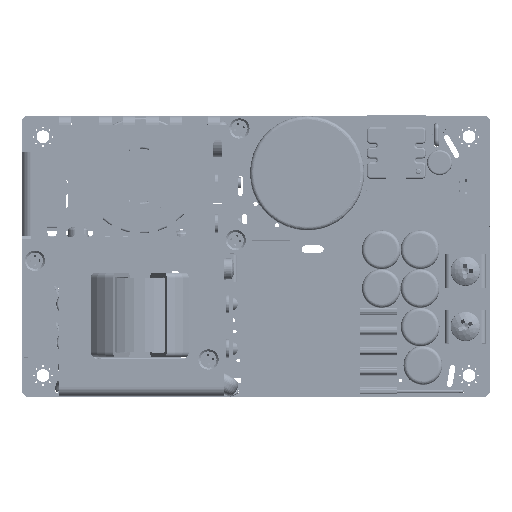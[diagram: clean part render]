
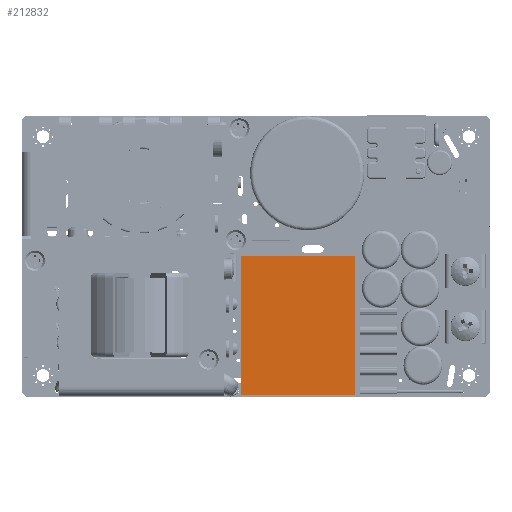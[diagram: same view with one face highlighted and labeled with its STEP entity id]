
A CAD part, top view. The second image highlights one B-rep face of the part: STEP entity #212832.
In plain terms, the highlighted planar face has unit normal (0, 0, 1).
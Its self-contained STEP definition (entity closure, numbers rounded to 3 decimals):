
#29384 = CARTESIAN_POINT ( 'NONE',  ( -0.064, -5.525, 144.353 ) ) ;
#30865 = PLANE ( 'NONE',  #91770 ) ;
#39710 = CARTESIAN_POINT ( 'NONE',  ( 30.936, -43.225, 144.353 ) ) ;
#41966 = CARTESIAN_POINT ( 'NONE',  ( -0.064, -43.225, 144.353 ) ) ;
#44978 = CARTESIAN_POINT ( 'NONE',  ( 3.185, -17.079, 144.353 ) ) ;
#45737 = VECTOR ( 'NONE', #90598, 1000. ) ;
#54440 = VERTEX_POINT ( 'NONE', #29384 ) ;
#57094 = CARTESIAN_POINT ( 'NONE',  ( 30.936, -5.525, 144.353 ) ) ;
#64327 = DIRECTION ( 'NONE',  ( 0., 0., 1. ) ) ;
#66141 = FACE_OUTER_BOUND ( 'NONE', #154481, .T. ) ;
#71908 = DIRECTION ( 'NONE',  ( 0., 1., 0. ) ) ;
#78920 = EDGE_CURVE ( 'NONE', #54440, #156027, #186446, .T. ) ;
#83855 = VERTEX_POINT ( 'NONE', #57094 ) ;
#90598 = DIRECTION ( 'NONE',  ( -1., 0., 0. ) ) ;
#91770 = AXIS2_PLACEMENT_3D ( 'NONE', #44978, #64327, #97256 ) ;
#97256 = DIRECTION ( 'NONE',  ( 1., 0., 0. ) ) ;
#99956 = LINE ( 'NONE', #41966, #150678 ) ;
#105203 = ORIENTED_EDGE ( 'NONE', *, *, #143962, .T. ) ;
#108498 = VERTEX_POINT ( 'NONE', #39710 ) ;
#114238 = LINE ( 'NONE', #191145, #164891 ) ;
#120977 = DIRECTION ( 'NONE',  ( 0., -1., 0. ) ) ;
#123231 = EDGE_CURVE ( 'NONE', #83855, #54440, #187112, .T. ) ;
#124987 = CARTESIAN_POINT ( 'NONE',  ( -0.064, -5.525, 144.353 ) ) ;
#133345 = VECTOR ( 'NONE', #120977, 1000. ) ;
#133417 = EDGE_CURVE ( 'NONE', #108498, #83855, #114238, .T. ) ;
#136685 = ORIENTED_EDGE ( 'NONE', *, *, #123231, .T. ) ;
#143962 = EDGE_CURVE ( 'NONE', #156027, #108498, #99956, .T. ) ;
#150678 = VECTOR ( 'NONE', #193970, 1000. ) ;
#154481 = EDGE_LOOP ( 'NONE', ( #195699, #105203, #207026, #136685 ) ) ;
#156027 = VERTEX_POINT ( 'NONE', #203617 ) ;
#164891 = VECTOR ( 'NONE', #71908, 1000. ) ;
#173086 = CARTESIAN_POINT ( 'NONE',  ( -0.064, -5.525, 144.353 ) ) ;
#186446 = LINE ( 'NONE', #173086, #133345 ) ;
#187112 = LINE ( 'NONE', #124987, #45737 ) ;
#191145 = CARTESIAN_POINT ( 'NONE',  ( 30.936, -5.525, 144.353 ) ) ;
#193970 = DIRECTION ( 'NONE',  ( 1., 0., 0. ) ) ;
#195699 = ORIENTED_EDGE ( 'NONE', *, *, #78920, .T. ) ;
#203617 = CARTESIAN_POINT ( 'NONE',  ( -0.064, -43.225, 144.353 ) ) ;
#207026 = ORIENTED_EDGE ( 'NONE', *, *, #133417, .T. ) ;
#212832 = ADVANCED_FACE ( 'NONE', ( #66141 ), #30865, .T. ) ;
